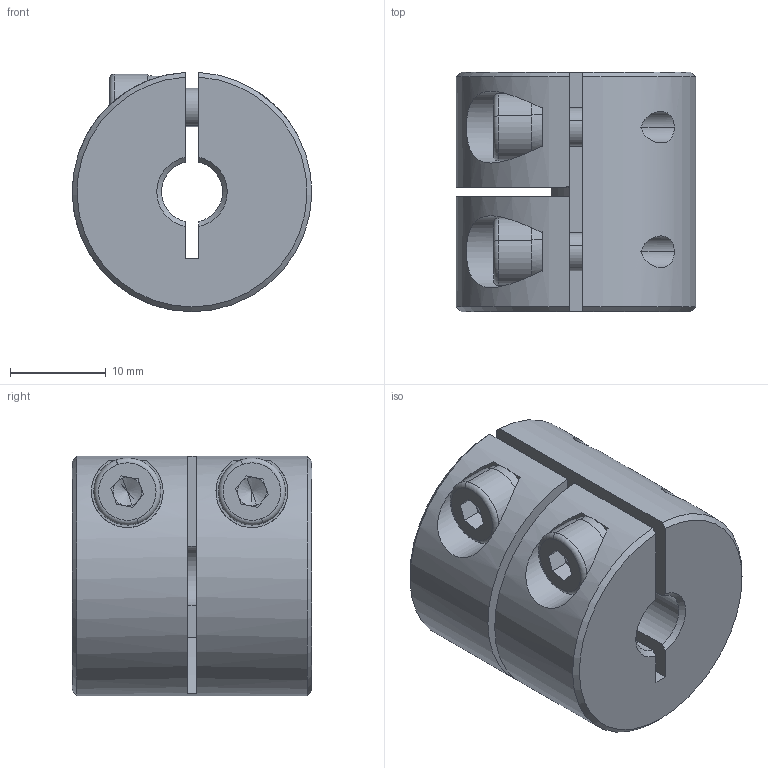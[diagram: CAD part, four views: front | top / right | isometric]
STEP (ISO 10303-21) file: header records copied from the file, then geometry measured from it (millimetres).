
FILE_DESCRIPTION (( 'STEP AP203' ), '1' );
FILE_NAME ('LL-B-D25L25-6.35-6.35.STEP', '2021-11-05T06:32:55', ( '' ), ( '' ), 'SwSTEP 2.0', 'SolidWorks 2018', '' );
FILE_SCHEMA (( 'CONFIG_CONTROL_DESIGN' ));
Length unit declared in the file: millimetre
Products named in the file (1): LL-B-D25L25-6.35-6.35
Bounding box: 24.99 x 25 x 24.98 mm (x, y, z)
Volume: 10641.9 mm3; surface area: 4950.2 mm2
Topology: 1 solids, 1 shells, 100 faces, 258 edges, 162 vertices
Faces by surface type: plane 50, cylinder 35, cone 11, torus 4
Entity records: 3335 total; most frequent: CARTESIAN_POINT 791, DIRECTION 536, ORIENTED_EDGE 508, EDGE_CURVE 254, AXIS2_PLACEMENT_3D 207, VERTEX_POINT 162, LINE 122, VECTOR 122
